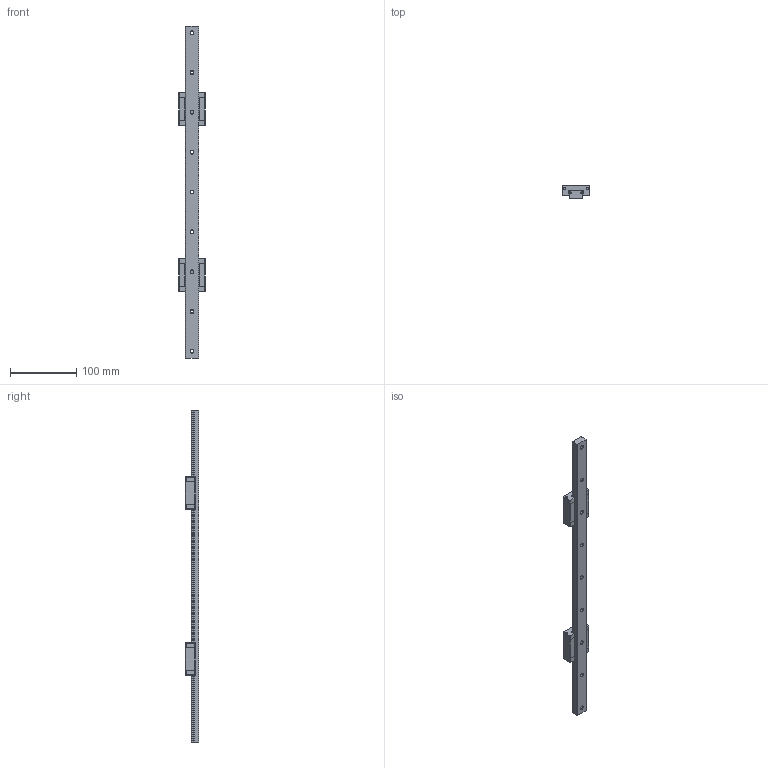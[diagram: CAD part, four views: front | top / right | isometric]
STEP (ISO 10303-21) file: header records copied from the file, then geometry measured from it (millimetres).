
FILE_DESCRIPTION( ( 'STEP AP203' ), ' ' );
FILE_NAME( 'p:/temp/worker_22/1136416_1136420/app_40_02018020511465791502737063ca5d5_000000_00_00_000000/format_0/SSE2BL20-500-MC-WC.stp', '2018-02-05T10:46:59', ( '' ), ( '' ), ' ', 'PARTsolutions', ' ' );
FILE_SCHEMA( ( 'CONFIG_CONTROL_DESIGN' ) );
Length unit declared in the file: millimetre
Products named in the file (3): SSE2BL20-500-MC-WC; _SSE2BL20-500-MC_r; _SSEB20_b
Assembly tree (3 placements, depth 2):
  SSE2BL20-500-MC-WC
    _SSE2BL20-500-MC_r
    _SSEB20_b  x2
Bounding box: 40 x 20 x 500 mm (x, y, z)
Volume: 149495.2 mm3; surface area: 51065.2 mm2
Topology: 3 solids, 3 shells, 553 faces, 1583 edges, 1048 vertices
Faces by surface type: plane 410, cylinder 109, cone 34
Full cylindrical faces by diameter (mm): 3 x8, 3.242 x8, 4.917 x9
Entity records: 9600 total; most frequent: CARTESIAN_POINT 1673, ORIENTED_EDGE 1612, DIRECTION 1564, EDGE_CURVE 806, LINE 662, VECTOR 662, VERTEX_POINT 560, AXIS2_PLACEMENT_3D 451
